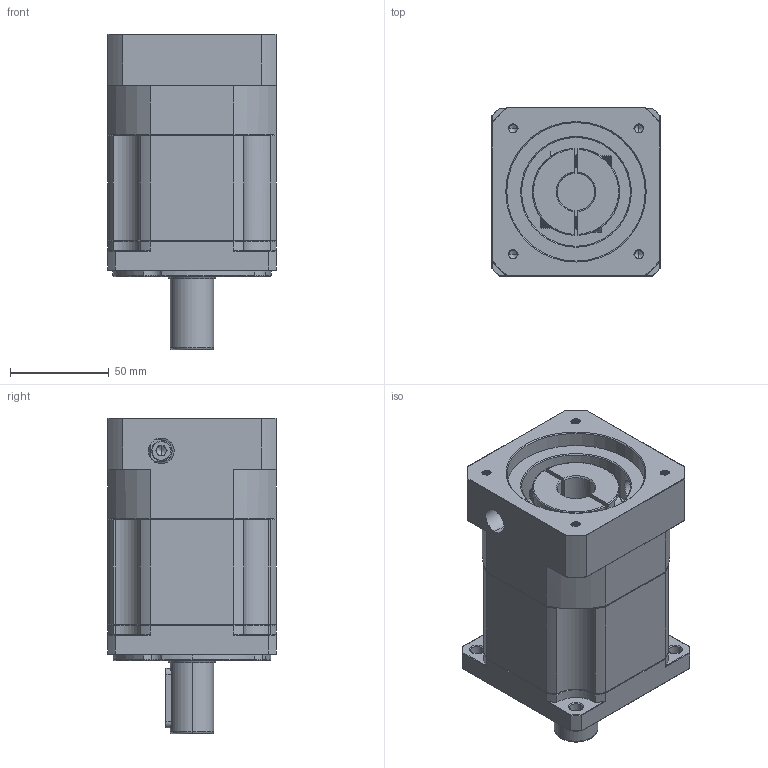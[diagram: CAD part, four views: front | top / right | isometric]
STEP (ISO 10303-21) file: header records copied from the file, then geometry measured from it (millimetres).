
FILE_DESCRIPTION (( 'STEP AP214' ), '1' );
FILE_NAME ('ZB90-D22-L2-19-70-90-M5.STEP', '2022-05-02T15:42:26', ( '' ), ( 'Microsoft' ), 'SwSTEP 2.0', 'SolidWorks 2016', '' );
FILE_SCHEMA (( 'AUTOMOTIVE_DESIGN' ));
Length unit declared in the file: millimetre
Products named in the file (1): ZB90-D22-L2-19-70-90-M5
Bounding box: 85 x 85 x 159.5 mm (x, y, z)
Volume: 732106.9 mm3; surface area: 90464.1 mm2
Topology: 4 solids, 4 shells, 1911 faces, 5026 edges, 3192 vertices
Faces by surface type: plane 876, cylinder 390, cone 319, bspline 314, torus 12
Entity records: 103977 total; most frequent: CARTESIAN_POINT 38600, ORIENTED_EDGE 10008, DIRECTION 8025, EDGE_CURVE 5004, VERTEX_POINT 3192, VECTOR 3083, LINE 3083, AXIS2_PLACEMENT_3D 2471
